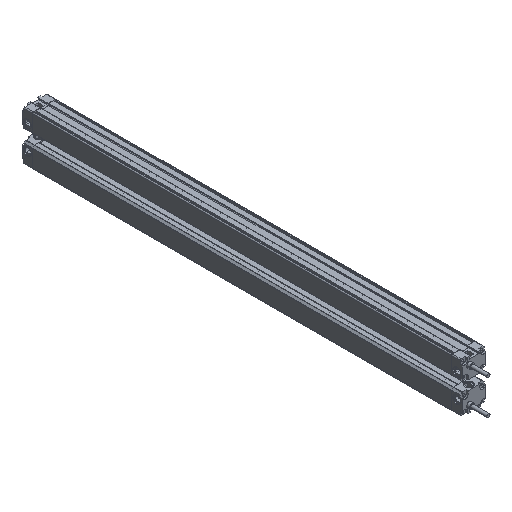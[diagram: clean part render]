
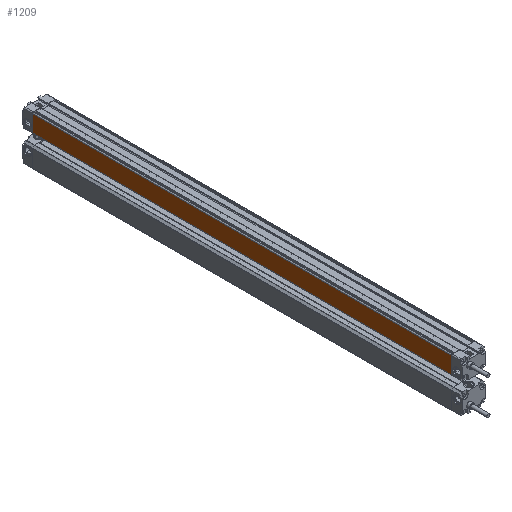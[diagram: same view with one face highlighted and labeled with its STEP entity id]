
A CAD part, isometric view. The second image highlights one B-rep face of the part: STEP entity #1209.
In plain terms, the highlighted planar face has unit normal (-1, 0, 0) as drawn and (1, 0, 0) by its records, which use the part's own axes.
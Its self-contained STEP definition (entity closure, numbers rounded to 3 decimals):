
#103 = LINE ( 'NONE', #7273, #999 ) ;
#641 = VECTOR ( 'NONE', #2318, 1000. ) ;
#689 = VERTEX_POINT ( 'NONE', #8080 ) ;
#999 = VECTOR ( 'NONE', #5728, 1000. ) ;
#1012 = LINE ( 'NONE', #1488, #641 ) ;
#1209 = ADVANCED_FACE ( 'NONE', ( #3636 ), #8355, .T. ) ;
#1488 = CARTESIAN_POINT ( 'NONE',  ( 12.5, -440., 8.293 ) ) ;
#1583 = VECTOR ( 'NONE', #9697, 1000. ) ;
#2121 = LINE ( 'NONE', #8899, #1583 ) ;
#2318 = DIRECTION ( 'NONE',  ( 0., 0., -1. ) ) ;
#2581 = ORIENTED_EDGE ( 'NONE', *, *, #10256, .T. ) ;
#2620 = ORIENTED_EDGE ( 'NONE', *, *, #5764, .F. ) ;
#3088 = CARTESIAN_POINT ( 'NONE',  ( 12.5, 0., 8.293 ) ) ;
#3393 = CARTESIAN_POINT ( 'NONE',  ( 12.5, -440., 8.293 ) ) ;
#3636 = FACE_OUTER_BOUND ( 'NONE', #8309, .T. ) ;
#4507 = ORIENTED_EDGE ( 'NONE', *, *, #6911, .F. ) ;
#4649 = CARTESIAN_POINT ( 'NONE',  ( 12.5, -440., 8.293 ) ) ;
#4861 = VERTEX_POINT ( 'NONE', #9554 ) ;
#5580 = AXIS2_PLACEMENT_3D ( 'NONE', #3393, #7588, #10007 ) ;
#5728 = DIRECTION ( 'NONE',  ( 0., 1., 0. ) ) ;
#5756 = VERTEX_POINT ( 'NONE', #4649 ) ;
#5764 = EDGE_CURVE ( 'NONE', #5756, #4861, #2121, .T. ) ;
#6684 = VECTOR ( 'NONE', #8948, 1000. ) ;
#6911 = EDGE_CURVE ( 'NONE', #4861, #689, #8020, .T. ) ;
#7273 = CARTESIAN_POINT ( 'NONE',  ( 12.5, -440., -9.2 ) ) ;
#7588 = DIRECTION ( 'NONE',  ( 1., 0., 0. ) ) ;
#8020 = LINE ( 'NONE', #3088, #6684 ) ;
#8080 = CARTESIAN_POINT ( 'NONE',  ( 12.5, 0., -9.2 ) ) ;
#8309 = EDGE_LOOP ( 'NONE', ( #4507, #2620, #2581, #9250 ) ) ;
#8355 = PLANE ( 'NONE',  #5580 ) ;
#8899 = CARTESIAN_POINT ( 'NONE',  ( 12.5, -440., 8.293 ) ) ;
#8948 = DIRECTION ( 'NONE',  ( 0., 0., -1. ) ) ;
#9250 = ORIENTED_EDGE ( 'NONE', *, *, #10339, .T. ) ;
#9395 = CARTESIAN_POINT ( 'NONE',  ( 12.5, -440., -9.2 ) ) ;
#9554 = CARTESIAN_POINT ( 'NONE',  ( 12.5, 0., 8.293 ) ) ;
#9697 = DIRECTION ( 'NONE',  ( 0., 1., 0. ) ) ;
#9969 = VERTEX_POINT ( 'NONE', #9395 ) ;
#10007 = DIRECTION ( 'NONE',  ( 0., 0., -1. ) ) ;
#10256 = EDGE_CURVE ( 'NONE', #5756, #9969, #1012, .T. ) ;
#10339 = EDGE_CURVE ( 'NONE', #9969, #689, #103, .T. ) ;
